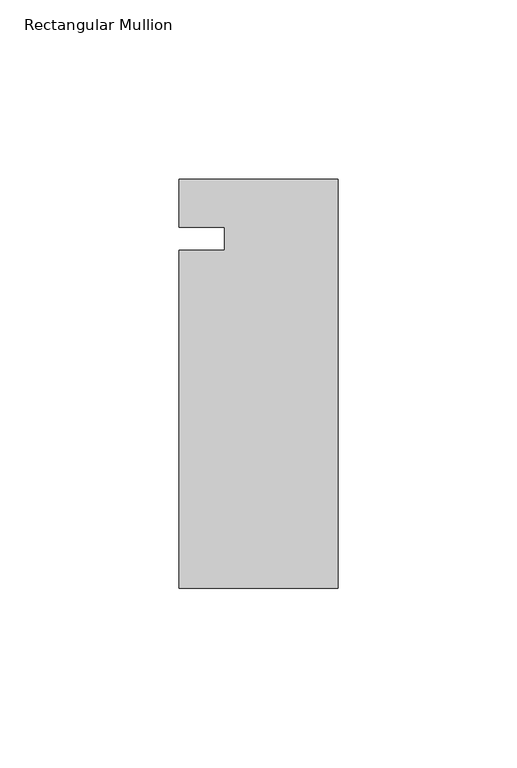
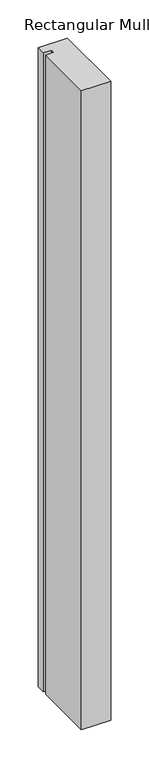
"""IFC4 building model written with IfcOpenShell, lengths in millimetres: member geometry, Rectangular Mullion : Kawneer-TRIFAB_VG_450_BACK_SB_Head."""

import ifcopenshell
import ifcopenshell.guid

model = None  # the IFC model being written
_history = None  # IfcOwnerHistory: only IFC2X3 demands one
_inside = {}  # id of a spatial element -> (the spatial element, [elements in it])
_under = {}  # id of a project, library or spatial element -> (it, [spatial elements below it])
_declared = {}  # id of a project -> (the project, [libraries it declares])
_typed = {}  # id of a type object -> (the type object, [elements of that type])
_made_of = {}  # id of a material, layer set ... -> (it, [elements and type objects made of it])


def new_model(schema):
    """Start an empty IFC model of exactly this schema.

    Asked for "IFC4X3", IfcOpenShell would pick the latest addendum, in which some entities
    have other attributes; the version numbers below select the first issue.
    IFC2X3 requires an IfcOwnerHistory on every rooted entity: one is made here for all.
    """
    global model, _history
    if schema == "IFC4X3":
        model = ifcopenshell.file(schema_version=(4, 3, 0, 0))
    else:
        model = ifcopenshell.file(schema=schema)
    _inside.clear()
    _under.clear()
    _declared.clear()
    _typed.clear()
    _made_of.clear()
    _history = None
    if model.schema == "IFC2X3":
        org = make("IfcOrganization", Name="unknown")
        user = make(
            "IfcPersonAndOrganization",
            ThePerson=make("IfcPerson", FamilyName="unknown"),
            TheOrganization=org,
        )
        app = make(
            "IfcApplication",
            ApplicationDeveloper=org,
            Version="unknown",
            ApplicationFullName="unknown",
            ApplicationIdentifier="unknown",
        )
        _history = make(
            "IfcOwnerHistory",
            OwningUser=user,
            OwningApplication=app,
            ChangeAction="ADDED",
            CreationDate=0,
        )
    return model


def make(cls, **values):
    """One entity of the class cls with the attributes given. An attribute that is None is left unset."""
    return model.create_entity(
        cls, **{name: value for name, value in values.items() if value is not None}
    )


def rooted(cls, **values):
    """An entity with a GlobalId (a new one), such as an element, a storey or a relation."""
    return make(cls, GlobalId=ifcopenshell.guid.new(), OwnerHistory=_history, **values)


def si_unit(unit_type, name, prefix=None):
    """IfcSIUnit, for example si_unit("LENGTHUNIT", "METRE", prefix="MILLI")."""
    return make("IfcSIUnit", UnitType=unit_type, Prefix=prefix, Name=name)


def assignment(units):
    """IfcUnitAssignment: the units of a project."""
    return None if units is None else make("IfcUnitAssignment", Units=units)


def point(xyz):
    """IfcCartesianPoint."""
    return None if xyz is None else make("IfcCartesianPoint", Coordinates=xyz)


def direction(xyz):
    """IfcDirection."""
    return None if xyz is None else make("IfcDirection", DirectionRatios=xyz)


def frame(location, z_axis=None, x_axis=None):
    """IfcAxis2Placement3D, a coordinate frame: its origin and axes. An axis left out is left unset."""
    return make(
        "IfcAxis2Placement3D",
        Location=point(location),
        Axis=direction(z_axis),
        RefDirection=direction(x_axis),
    )


def origin():
    """The frame at (0, 0, 0) with its axes left unset."""
    return frame((0.0, 0.0, 0.0))


def place(relative_to, where):
    """IfcLocalPlacement: puts the frame where relative to a parent placement (None: the world)."""
    return make(
        "IfcLocalPlacement", PlacementRelTo=relative_to, RelativePlacement=where
    )


def context(
    kind, dimensions, precision=None, world=None, true_north=None, identifier=None
):
    """IfcGeometricRepresentationContext, for example the 3D "Model" context."""
    return make(
        "IfcGeometricRepresentationContext",
        ContextIdentifier=identifier,
        ContextType=kind,
        CoordinateSpaceDimension=dimensions,
        Precision=precision,
        WorldCoordinateSystem=world,
        TrueNorth=true_north,
    )


def project(units=None, contexts=None):
    """IfcProject with its units and contexts."""
    return rooted(
        "IfcProject",
        Name="project",
        RepresentationContexts=contexts,
        UnitsInContext=assignment(units),
    )


def spatial(cls, under=None, at=None, **own):
    """A site, building, storey or space (cls), placed at a placement, below another one or the project."""
    s = rooted(cls, ObjectPlacement=at, **own)
    if under is not None:
        _under.setdefault(under.id(), (under, []))[1].append(s)
    return s


def polyline(points):
    """IfcPolyline through the points."""
    return make("IfcPolyline", Points=[point(p) for p in points])


def outline(outer, holes=None, kind="AREA"):
    """IfcArbitraryClosedProfileDef: a profile drawn as a closed curve; with holes, ...WithVoids."""
    if holes is None:
        return make("IfcArbitraryClosedProfileDef", ProfileType=kind, OuterCurve=outer)
    return make(
        "IfcArbitraryProfileDefWithVoids",
        ProfileType=kind,
        OuterCurve=outer,
        InnerCurves=holes,
    )


def extrude(swept, where, along, depth):
    """IfcExtrudedAreaSolid: the profile swept, set in the frame where, extruded along a direction by depth."""
    return make(
        "IfcExtrudedAreaSolid",
        SweptArea=swept,
        Position=where,
        ExtrudedDirection=direction(along),
        Depth=depth,
    )


def shape(context_of_items, identifier, shape_type, items):
    """IfcShapeRepresentation: the items that make up one representation, for example the "Body"."""
    return make(
        "IfcShapeRepresentation",
        ContextOfItems=context_of_items,
        RepresentationIdentifier=identifier,
        RepresentationType=shape_type,
        Items=items,
    )


def source(mapping_origin, context_of_items, identifier, shape_type, items):
    """IfcRepresentationMap: a shape defined once, which mapped items show again and again."""
    return make(
        "IfcRepresentationMap",
        MappingOrigin=mapping_origin,
        MappedRepresentation=shape(context_of_items, identifier, shape_type, items),
    )


def transform(
    local_origin,
    x_axis=None,
    y_axis=None,
    z_axis=None,
    scale=None,
    scale2=None,
    scale3=None,
    uniform=True,
):
    """IfcCartesianTransformationOperator3D, or its non-uniform kind. x_axis, y_axis, z_axis: its Axis1, 2, 3."""
    if uniform:
        return make(
            "IfcCartesianTransformationOperator3D",
            Axis1=direction(x_axis),
            Axis2=direction(y_axis),
            LocalOrigin=point(local_origin),
            Scale=scale,
            Axis3=direction(z_axis),
        )
    return make(
        "IfcCartesianTransformationOperator3DnonUniform",
        Axis1=direction(x_axis),
        Axis2=direction(y_axis),
        LocalOrigin=point(local_origin),
        Scale=scale,
        Axis3=direction(z_axis),
        Scale2=scale2,
        Scale3=scale3,
    )


def mapped(mapping_source, mapping_target):
    """IfcMappedItem: shows the shape of a source again, moved by a transform."""
    return make(
        "IfcMappedItem", MappingSource=mapping_source, MappingTarget=mapping_target
    )


def made_of(thing, what):
    """Note that an element or type object is made of a material, layer set ...; save() writes the relation."""
    if what is not None:
        _made_of.setdefault(what.id(), (what, []))[1].append(thing)
    return thing


def element(
    cls,
    number,
    at=None,
    inside=None,
    cuts=None,
    type_object=None,
    material=None,
    context=None,
    identifier="Body",
    shape_type=None,
    held_by="IfcProductDefinitionShape",
    body=None,
    shapes=None,
    **own,
):
    """One element of the class cls, such as IfcWall. Its Tag is "e" and its number.

    at: its placement. inside: the storey or other place that contains it. cuts: it is an
    opening in that element (IfcRelVoidsElement). A single representation is given by context,
    identifier, shape_type and body (its items); several are given by shapes. held_by: the class
    of the entity that holds the representations. save() writes the other relations.
    """
    e = rooted(cls, Tag="e%d" % number, ObjectPlacement=at, **own)
    if body is not None:
        shapes = [shape(context, identifier, shape_type, body)]
    if shapes is not None:
        e.Representation = make(held_by, Representations=shapes)
    if inside is not None:
        _inside.setdefault(inside.id(), (inside, []))[1].append(e)
    if cuts is not None:
        rooted(
            "IfcRelVoidsElement", RelatingBuildingElement=cuts, RelatedOpeningElement=e
        )
    if type_object is not None:
        _typed.setdefault(type_object.id(), (type_object, []))[1].append(e)
    return made_of(e, material)


def aggregate(whole, parts):
    """IfcRelAggregates: a whole, such as a stair, and the parts it consists of."""
    return rooted("IfcRelAggregates", RelatingObject=whole, RelatedObjects=parts)


def save(model, path):
    """Write the relations noted so far, then the file.

    IfcRelAggregates (storeys below a building ...), IfcRelContainedInSpatialStructure (elements
    in a storey), IfcRelDefinesByType, IfcRelAssociatesMaterial and IfcRelDeclares: one each for
    every whole, place, type object, material and project.
    """
    for whole, parts in _under.values():
        aggregate(whole, parts)
    for where, things in _inside.values():
        rooted(
            "IfcRelContainedInSpatialStructure",
            RelatedElements=things,
            RelatingStructure=where,
        )
    for kind, things in _typed.values():
        rooted("IfcRelDefinesByType", RelatedObjects=things, RelatingType=kind)
    for what, things in _made_of.values():
        rooted("IfcRelAssociatesMaterial", RelatedObjects=things, RelatingMaterial=what)
    for by, libraries in _declared.values():
        rooted("IfcRelDeclares", RelatingContext=by, RelatedDefinitions=libraries)
    model.write(path)


def rectangular_mullion_3d1d8518(model_context):
    return source(origin(), model_context, "Body", "SweptSolid", [
        extrude(outline(polyline([(-44.45, 16.66875), (0.0, 16.66875), (0.0, -97.63125), (-44.45, -97.63125), (-44.45, -3.175), (-31.7482296, -3.175), (-31.7482296, 3.175), (-44.45, 3.175), (-44.45, 16.66875)])), frame((0.0, 0.0, -1026.3344133), z_axis=(0.0, 0.0, 1.0), x_axis=(1.0, 0.0, 0.0)), (0.0, 0.0, 1.0), 1026.3344133),
    ])


if __name__ == "__main__":
    model = new_model("IFC4")
    model_context = context("Model", 3, world=origin())
    ifc_project = project(units=[si_unit("LENGTHUNIT", "METRE", prefix="MILLI")], contexts=[model_context])
    site = spatial("IfcSite", under=ifc_project)
    building = spatial("IfcBuilding", under=site)
    placement = place(None, origin())
    rectangular_mullion_shape = rectangular_mullion_3d1d8518(model_context)
    element("IfcMember", 1, ObjectType="Rectangular Mullion : Kawneer-TRIFAB_VG_450_BACK_SB_Head", at=placement, inside=building, context=model_context, shape_type="MappedRepresentation", body=[
        mapped(rectangular_mullion_shape, transform((0.0, 0.0, 0.0), x_axis=(1.0, 0.0, 0.0), y_axis=(0.0, 1.0, 0.0), z_axis=(0.0, 0.0, 1.0))),
    ])
    save(model, "model.ifc")
